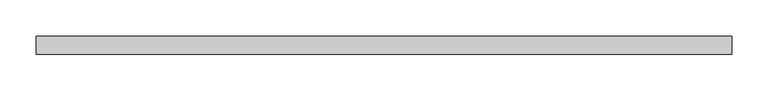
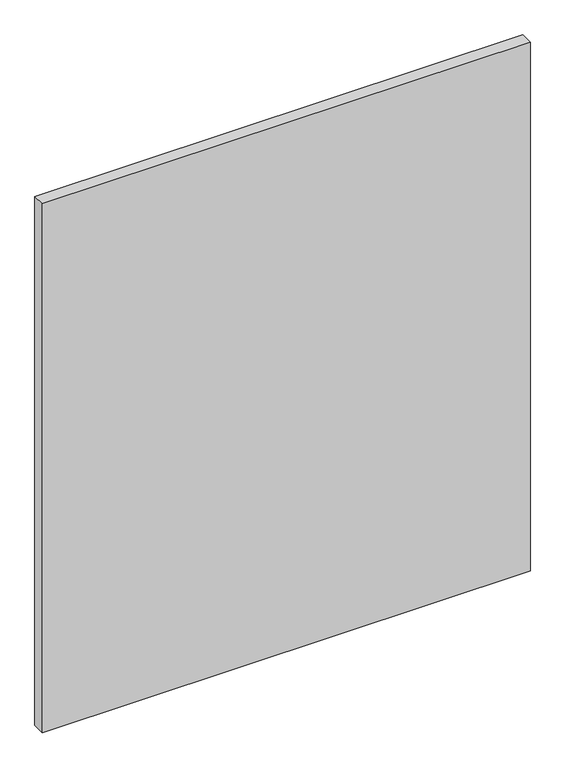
"""IFC4 building model written with IfcOpenShell, lengths in millimetres: plate geometry, 系統嵌板 : 有玻璃的."""

from ifc_helpers import new_model, si_unit, origin, origin_with_axes, place, context, project, spatial, polyline, outline, extrude, source, transform, mapped, element, save


def plate_045547b7(model_context):
    return source(origin(), model_context, "Body", "SweptSolid", [
        extrude(outline(polyline([(480.0, 24.5), (-480.0, 24.5), (-480.0, 49.5), (480.0, 49.5), (480.0, 24.5)])), origin_with_axes(), (0.0, 0.0, 1.0), 1099.8779336),
    ])


if __name__ == "__main__":
    model = new_model("IFC4")
    model_context = context("Model", 3, world=origin())
    ifc_project = project(units=[si_unit("LENGTHUNIT", "METRE", prefix="MILLI")], contexts=[model_context])
    site = spatial("IfcSite", under=ifc_project)
    building = spatial("IfcBuilding", under=site)
    placement = place(None, origin())
    plate_shape = plate_045547b7(model_context)
    element("IfcPlate", 1, ObjectType="系統嵌板 : 有玻璃的", at=placement, inside=building, context=model_context, shape_type="MappedRepresentation", body=[
        mapped(plate_shape, transform((0.0, 0.0, 0.0), x_axis=(1.0, 0.0, 0.0), y_axis=(0.0, 1.0, 0.0), z_axis=(0.0, 0.0, 1.0))),
    ])
    save(model, "model.ifc")
